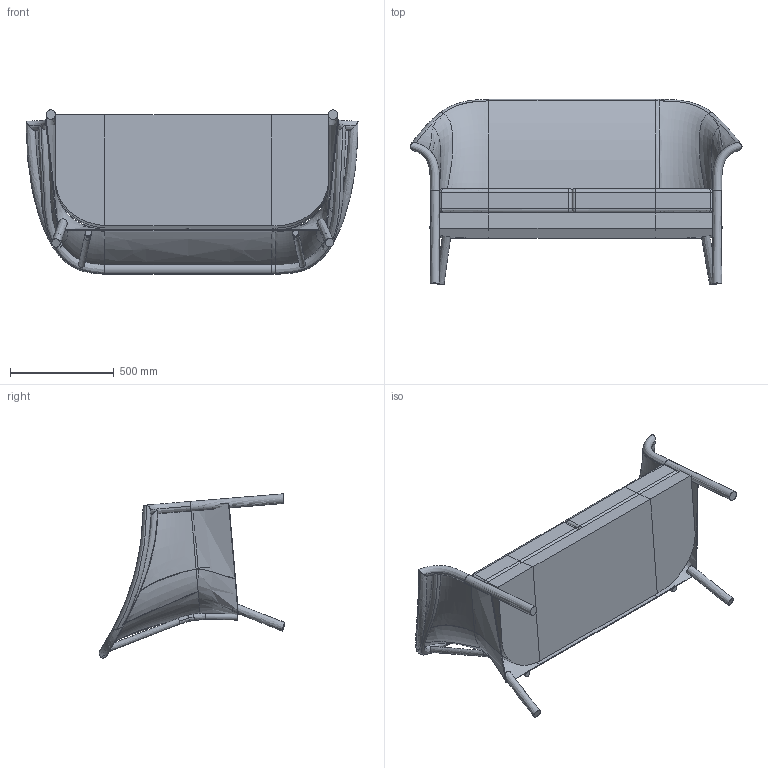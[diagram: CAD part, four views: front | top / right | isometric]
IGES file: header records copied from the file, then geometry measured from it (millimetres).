
Global section: file name: VincentSheppard_Victor_Lounge Sofa 2; native system: unknown; preprocessor: unknown; author: ict@vincentsheppard.com; organization: unknown; date: 20180522.133106; units: millimetre
Bounding box: 1597.67 x 892.2 x 790.81 mm (x, y, z)
Volume: 147013063.5 mm3; surface area: 7232171 mm2
Topology: 9 solids, 9 shells, 189 faces, 455 edges, 274 vertices
Faces by surface type: bspline 177, offset 12
